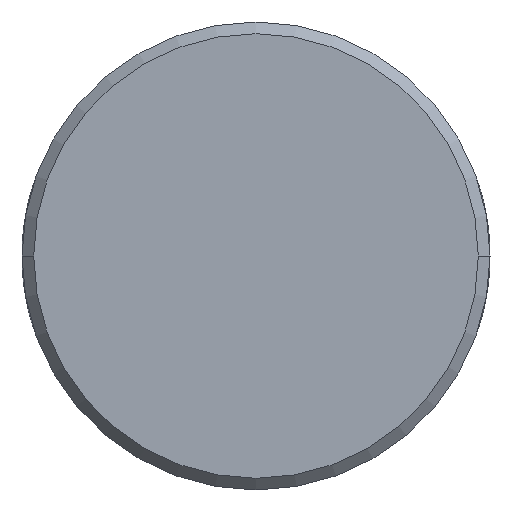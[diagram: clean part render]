
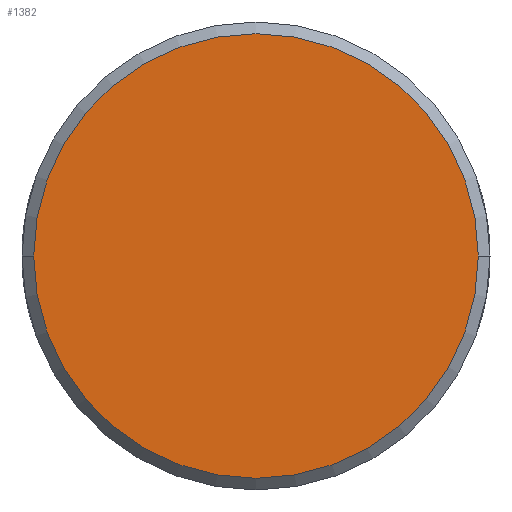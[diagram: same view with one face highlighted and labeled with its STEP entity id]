
A CAD part, front view. The second image highlights one B-rep face of the part: STEP entity #1382.
In plain terms, the highlighted planar face has unit normal (0, -1, 0).
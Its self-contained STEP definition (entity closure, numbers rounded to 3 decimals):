
#1=CARTESIAN_POINT('',(0.,-40.,0.));
#2=DIRECTION('',(0.,-1.,0.));
#3=DIRECTION('',(-1.,0.,0.));
#4=AXIS2_PLACEMENT_3D('',#1,#2,#3);
#6=CARTESIAN_POINT('',(0.,-40.,0.));
#7=DIRECTION('',(0.,-1.,0.));
#8=DIRECTION('',(1.,0.,0.));
#9=AXIS2_PLACEMENT_3D('',#6,#7,#8);
#1288=CARTESIAN_POINT('',(-5.7,-40.,0.));
#1289=CARTESIAN_POINT('',(5.7,-40.,0.));
#1290=VERTEX_POINT('',#1288);
#1291=VERTEX_POINT('',#1289);
#1371=CARTESIAN_POINT('',(0.,-40.,0.));
#1372=DIRECTION('',(0.,1.,0.));
#1373=DIRECTION('',(1.,0.,0.));
#1374=AXIS2_PLACEMENT_3D('',#1371,#1372,#1373);
#1375=PLANE('',#1374);
#1377=ORIENTED_EDGE('',*,*,#1376,.F.);
#1379=ORIENTED_EDGE('',*,*,#1378,.F.);
#1380=EDGE_LOOP('',(#1377,#1379));
#1381=FACE_OUTER_BOUND('',#1380,.F.);
#1382=ADVANCED_FACE('',(#1381),#1375,.F.);
#5=CIRCLE('',#4,5.7);
#10=CIRCLE('',#9,5.7);
#1376=EDGE_CURVE('',#1290,#1291,#5,.T.);
#1378=EDGE_CURVE('',#1291,#1290,#10,.T.);
